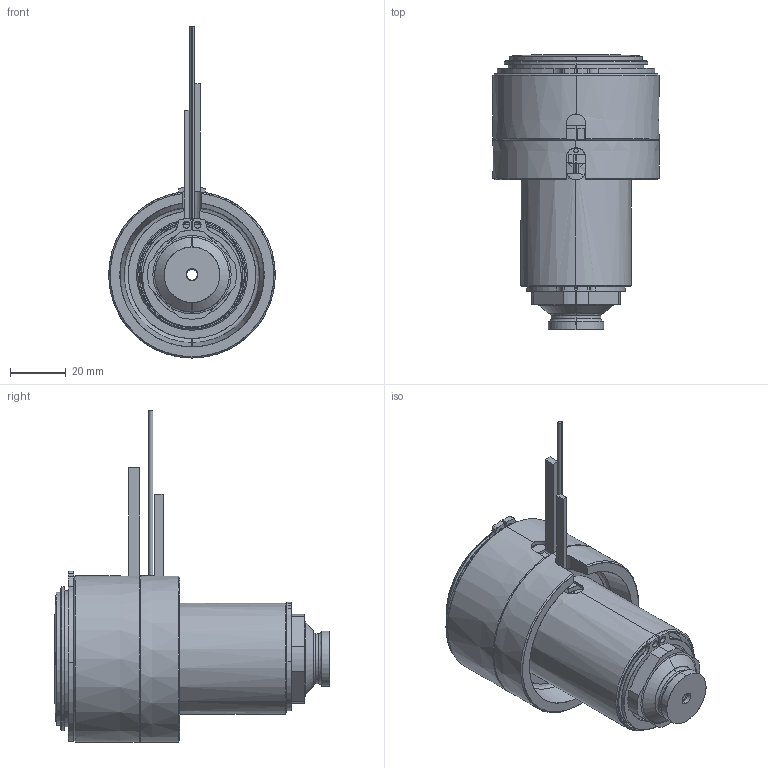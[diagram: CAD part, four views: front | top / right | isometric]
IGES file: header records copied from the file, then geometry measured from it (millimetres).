
Start section: SolidWorks IGES file using analytic representation for surfaces
Global section: file name: C:\Documents and Settings\ws-20\Desktop\TEM\UGER6602-M-A-1 [Øb-3.9 P-0 ØC-15].IGS; native system: SolidWorks 2012; preprocessor: SolidWorks 2012; author: ws-20; date: 120417.115533; units: millimetre
Bounding box: 60 x 99.25 x 119.65 mm (x, y, z)
Surface area: 62252.2 mm2 (no closed solid volume)
Topology: 0 solids, 0 shells, 174 faces, 3358 edges, 3358 vertices
Faces by surface type: revolution 103, bspline 71
